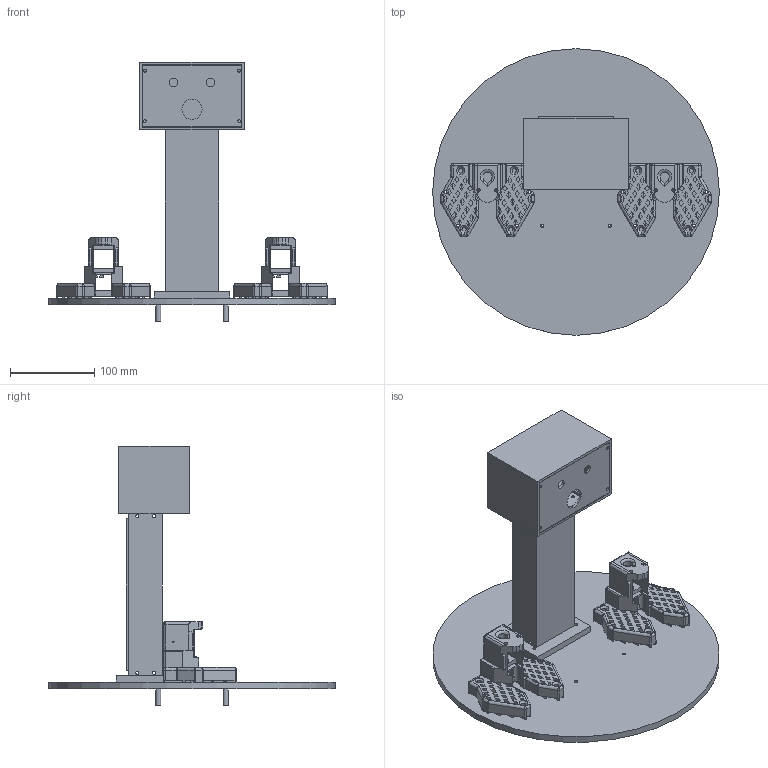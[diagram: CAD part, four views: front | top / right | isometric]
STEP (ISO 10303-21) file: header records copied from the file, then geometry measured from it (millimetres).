
FILE_DESCRIPTION(('Open CASCADE Model'),'2;1');
FILE_NAME('Open CASCADE Shape Model','2026-10-06T17:18:03',('Author'),( 'Open CASCADE'),'Open CASCADE STEP processor 7.8','Open CASCADE 7.8' ,'Unknown');
FILE_SCHEMA(('AUTOMOTIVE_DESIGN { 1 0 10303 214 1 1 1 1 }'));
Length unit declared in the file: millimetre
Products named in the file (20): compact_body; deck; standoff_1; standoff_2; standoff_3; standoff_4; column_foot; column; column_rear_cover; column_lower_bridge; column_upper_bridge; head_shell; face_panel; camera_shelf; camera_spacer_1; camera_spacer_2; camera_spacer_3; camera_spacer_4; left_SO101_base_modified; right_SO101_base_modified
Assembly tree (19 placements, depth 2):
  compact_body
    deck
    standoff_1
    standoff_2
    standoff_3
    standoff_4
    column_foot
    column
    column_rear_cover
    column_lower_bridge
    column_upper_bridge
    head_shell
    face_panel
    camera_shelf
    camera_spacer_1
    camera_spacer_2
    camera_spacer_3
    camera_spacer_4
    left_SO101_base_modified
    right_SO101_base_modified
Bounding box: 340 x 340 x 308 mm (x, y, z)
Volume: 1299404.5 mm3; surface area: 509738.2 mm2
Topology: 19 solids, 19 shells, 1406 faces, 4212 edges, 2634 vertices
Faces by surface type: plane 1000, cylinder 330, bspline 36, torus 20, cone 16, sphere 4
Full cylindrical faces by diameter (mm): 3 x4, 3.6 x92, 6 x4, 7 x4, 10 x2, 24 x1, 340 x1
Entity records: 111997 total; most frequent: CARTESIAN_POINT 28438, DIRECTION 15258, LINE 10446, VECTOR 10446, ORIENTED_EDGE 8372, PCURVE 8372, DEFINITIONAL_REPRESENTATION 8372, EDGE_CURVE 4186
